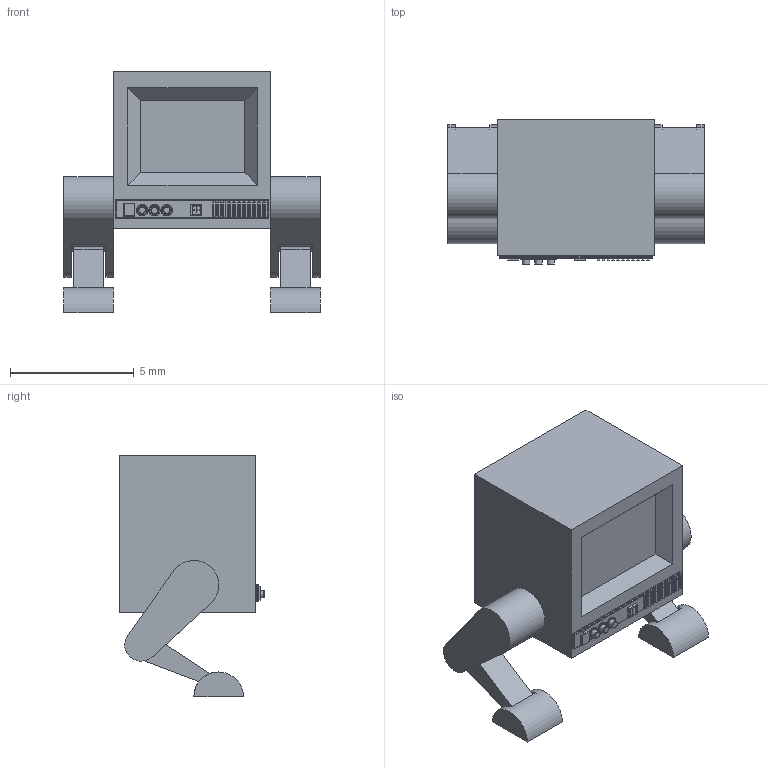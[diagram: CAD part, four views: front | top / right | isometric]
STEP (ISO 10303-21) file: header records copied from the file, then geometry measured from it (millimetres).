
FILE_DESCRIPTION(/* description */ ('','CAx-IF Rec.Pracs.---Representation and Presentation of Product Manufacturing Information (PMI)---4.0---2014-10-13'),/* implementation_level */ '2;1');
FILE_NAME(/* name */ 'Computer Animatronic v5.step',/* time_stamp */ '2025-02-03T10:32:23+05:30',/* author */ (''),/* organization */ (''),/* preprocessor_version */ 'ST-DEVELOPER v20',/* originating_system */ 'Autodesk Translation Framework v13.20.0.188',/* authorisation */ '');
FILE_SCHEMA (('AP242_MANAGED_MODEL_BASED_3D_ENGINEERING_MIM_LF { 1 0 10303 442 1 1 4 }'));
Length unit declared in the file: millimetre
Products named in the file (9): Computer Animatronic; CRT Monitor; Upper Right Leg; Lower Right Leg; Right Foot; Upper Left Leg(Mirror); Lower Left Leg Leg(Mirror); Left Foot (Mirror); CRT Monitor Body
Assembly tree (8 placements, depth 2):
  Computer Animatronic
    CRT Monitor
    Upper Right Leg
    Lower Right Leg
    Right Foot
    Upper Left Leg(Mirror)
    Lower Left Leg Leg(Mirror)
    Left Foot (Mirror)
    CRT Monitor Body
Bounding box: 10.35 x 5.85 x 9.75 mm (x, y, z)
Volume: 251.7 mm3; surface area: 377.1 mm2
Topology: 7 solids, 7 shells, 413 faces, 868 edges, 500 vertices
Faces by surface type: cylinder 171, plane 151, torus 47, sphere 44
Full cylindrical faces by diameter (mm): 0.295 x3, 0.382 x3, 0.467 x3
Entity records: 11137 total; most frequent: DIRECTION 2115, CARTESIAN_POINT 1798, ORIENTED_EDGE 1736, EDGE_CURVE 868, AXIS2_PLACEMENT_3D 817, VERTEX_POINT 500, LINE 481, VECTOR 481
